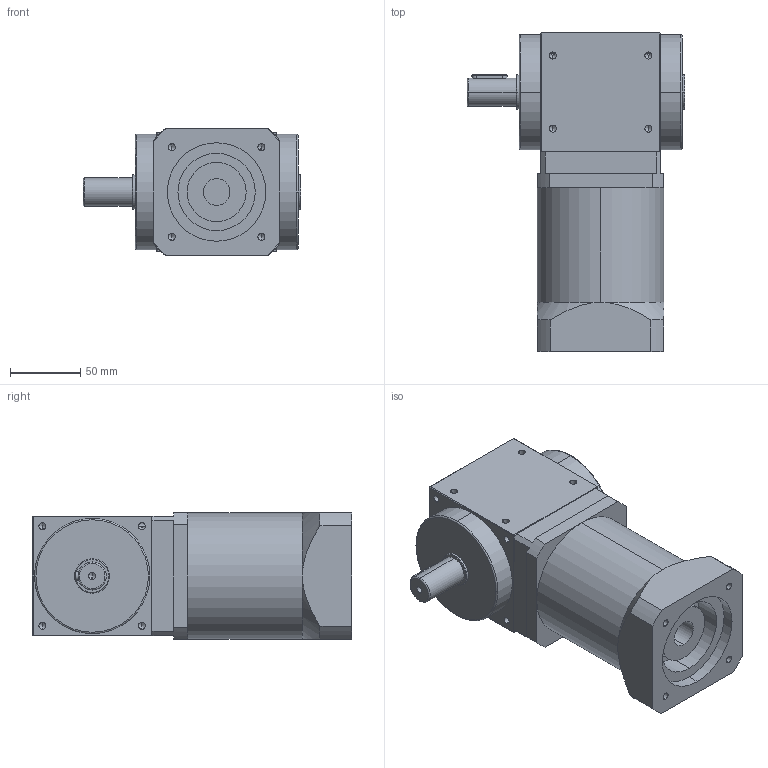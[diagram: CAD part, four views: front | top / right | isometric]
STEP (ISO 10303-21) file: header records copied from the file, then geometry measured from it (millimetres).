
FILE_DESCRIPTION (( 'STEP AP214' ), '1' );
FILE_NAME ('PAW085A-L2-P(12-100) 19-70-90-M6.STEP', '2020-12-05T02:53:43', ( '微软用户' ), ( '微软中国' ), 'SwSTEP 2.0', 'SolidWorks 2014', '' );
FILE_SCHEMA (( 'AUTOMOTIVE_DESIGN' ));
Length unit declared in the file: millimetre
Products named in the file (2): PAW085A-L2-P(12-100) 19-70-90-M6
Bounding box: 155 x 227 x 90 mm (x, y, z)
Volume: 1697916.2 mm3; surface area: 115274.7 mm2
Topology: 1 solids, 2 shells, 226 faces, 540 edges, 310 vertices
Faces by surface type: cylinder 84, plane 70, cone 66, torus 6
Entity records: 9081 total; most frequent: CARTESIAN_POINT 1402, DIRECTION 1151, ORIENTED_EDGE 1008, EDGE_CURVE 504, AXIS2_PLACEMENT_3D 454, VERTEX_POINT 310, EDGE_LOOP 262, VECTOR 243
